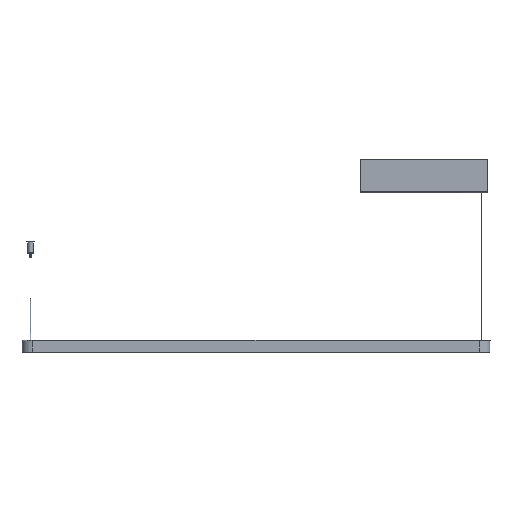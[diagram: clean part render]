
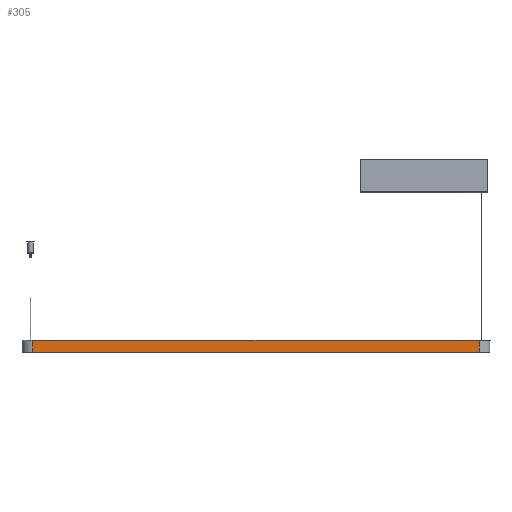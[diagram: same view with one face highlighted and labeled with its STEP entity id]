
A CAD part, front view. The second image highlights one B-rep face of the part: STEP entity #305.
In plain terms, the highlighted planar face has unit normal (0, -1, 0).
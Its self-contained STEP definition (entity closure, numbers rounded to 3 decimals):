
#305=ADVANCED_FACE('',(#630),#5404,.T.);
#630=FACE_OUTER_BOUND('',#959,.T.);
#959=EDGE_LOOP('',(#2148,#2149,#2150,#2151));
#2148=ORIENTED_EDGE('',*,*,#3395,.T.);
#2149=ORIENTED_EDGE('',*,*,#3407,.T.);
#2150=ORIENTED_EDGE('',*,*,#3315,.F.);
#2151=ORIENTED_EDGE('',*,*,#3408,.T.);
#3315=EDGE_CURVE('',#5065,#5066,#4100,.T.);
#3395=EDGE_CURVE('',#5199,#5198,#4176,.T.);
#3407=EDGE_CURVE('',#5198,#5066,#4188,.T.);
#3408=EDGE_CURVE('',#5065,#5199,#4189,.T.);
#4100=B_SPLINE_CURVE_WITH_KNOTS('',1,(#10969,#10970),.UNSPECIFIED.,.F.,
 .F.,(2,2),(0.,26.8),.UNSPECIFIED.);
#4176=B_SPLINE_CURVE_WITH_KNOTS('',1,(#11133,#11134),.UNSPECIFIED.,.F.,
 .F.,(2,2),(-26.8,0.),.UNSPECIFIED.);
#4188=B_SPLINE_CURVE_WITH_KNOTS('',1,(#11157,#11158),.UNSPECIFIED.,.F.,
 .F.,(2,2),(0.,1010.),.UNSPECIFIED.);
#4189=B_SPLINE_CURVE_WITH_KNOTS('',1,(#11159,#11160),.UNSPECIFIED.,.F.,
 .F.,(2,2),(0.,1010.),.UNSPECIFIED.);
#5065=VERTEX_POINT('',#10546);
#5066=VERTEX_POINT('',#10547);
#5198=VERTEX_POINT('',#10679);
#5199=VERTEX_POINT('',#10680);
#5404=PLANE('',#6640);
#6640=AXIS2_PLACEMENT_3D('',#10276,#6985,$);
#6985=DIRECTION('',(0.,-1.,0.));
#10276=CARTESIAN_POINT('',(-606.12,-23.9,16.2));
#10546=CARTESIAN_POINT('',(-505.,-23.9,-13.4));
#10547=CARTESIAN_POINT('',(-505.,-23.9,13.4));
#10679=CARTESIAN_POINT('',(505.,-23.9,13.4));
#10680=CARTESIAN_POINT('',(505.,-23.9,-13.4));
#10969=CARTESIAN_POINT('',(-505.,-23.9,-13.4));
#10970=CARTESIAN_POINT('',(-505.,-23.9,13.4));
#11133=CARTESIAN_POINT('',(505.,-23.9,-13.4));
#11134=CARTESIAN_POINT('',(505.,-23.9,13.4));
#11157=CARTESIAN_POINT('',(505.,-23.9,13.4));
#11158=CARTESIAN_POINT('',(-505.,-23.9,13.4));
#11159=CARTESIAN_POINT('',(-505.,-23.9,-13.4));
#11160=CARTESIAN_POINT('',(505.,-23.9,-13.4));
